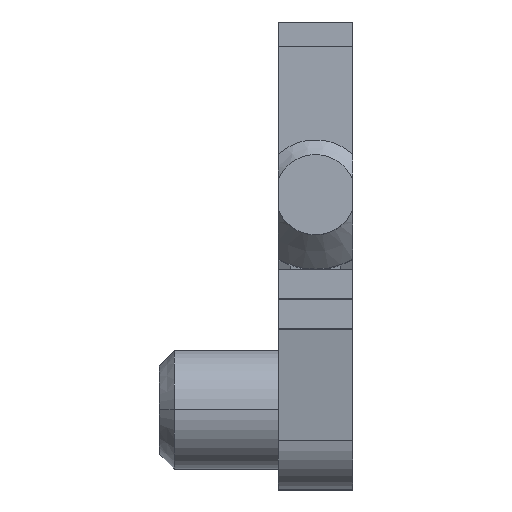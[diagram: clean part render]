
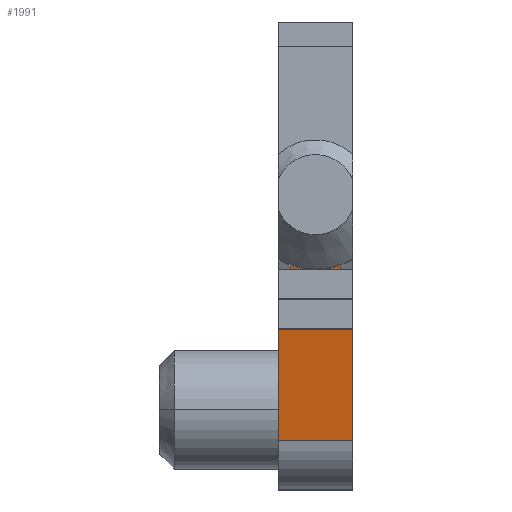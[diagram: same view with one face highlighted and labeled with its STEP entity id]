
A CAD part, top view. The second image highlights one B-rep face of the part: STEP entity #1991.
In plain terms, the highlighted planar face has unit normal (0, -0.174, 0.985).
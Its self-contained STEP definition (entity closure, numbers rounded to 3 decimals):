
#7 = LINE ( 'NONE', #755, #1011 ) ;
#21 = CARTESIAN_POINT ( 'NONE',  ( -1.25, -8.218, -32.112 ) ) ;
#52 = VERTEX_POINT ( 'NONE', #1746 ) ;
#207 = LINE ( 'NONE', #573, #2129 ) ;
#223 = CARTESIAN_POINT ( 'NONE',  ( -0.85, -8.218, -32.112 ) ) ;
#252 = LINE ( 'NONE', #1008, #3232 ) ;
#442 = EDGE_CURVE ( 'NONE', #5050, #579, #2535, .T. ) ;
#459 =( BOUNDED_CURVE ( )  B_SPLINE_CURVE ( 3, ( #995, #611, #4499, #2536 ),
 .UNSPECIFIED., .F., .T. ) 
 B_SPLINE_CURVE_WITH_KNOTS ( ( 4, 4 ),
 ( 2.754, 3.529 ),
 .UNSPECIFIED. ) 
 CURVE ( )  GEOMETRIC_REPRESENTATION_ITEM ( )  RATIONAL_B_SPLINE_CURVE ( ( 1., 0.951, 0.951, 1. ) ) 
 REPRESENTATION_ITEM ( '' )  );
#573 = CARTESIAN_POINT ( 'NONE',  ( -1.25, -8.218, -32.112 ) ) ;
#579 = VERTEX_POINT ( 'NONE', #3121 ) ;
#604 = EDGE_CURVE ( 'NONE', #52, #3971, #1122, .T. ) ;
#611 = CARTESIAN_POINT ( 'NONE',  ( 0.298, -2.308, -31.07 ) ) ;
#755 = CARTESIAN_POINT ( 'NONE',  ( 0.85, -8.218, -32.112 ) ) ;
#781 = ORIENTED_EDGE ( 'NONE', *, *, #4989, .T. ) ;
#813 = EDGE_CURVE ( 'NONE', #3971, #579, #207, .T. ) ;
#862 = PLANE ( 'NONE',  #2774 ) ;
#995 = CARTESIAN_POINT ( 'NONE',  ( 0.85, -2.083, -31.03 ) ) ;
#1008 = CARTESIAN_POINT ( 'NONE',  ( 48.969, -3.128, -31.214 ) ) ;
#1011 = VECTOR ( 'NONE', #3868, 1000. ) ;
#1026 = VERTEX_POINT ( 'NONE', #2315 ) ;
#1122 = LINE ( 'NONE', #2657, #4350 ) ;
#1174 = ORIENTED_EDGE ( 'NONE', *, *, #813, .F. ) ;
#1323 = DIRECTION ( 'NONE',  ( 0., -0.985, -0.174 ) ) ;
#1581 = DIRECTION ( 'NONE',  ( -1., 0., 0. ) ) ;
#1702 = VECTOR ( 'NONE', #1323, 1000. ) ;
#1746 = CARTESIAN_POINT ( 'NONE',  ( 1.25, -8.218, -32.112 ) ) ;
#1768 = VECTOR ( 'NONE', #3291, 1000. ) ;
#1862 = ORIENTED_EDGE ( 'NONE', *, *, #3608, .T. ) ;
#1923 = ORIENTED_EDGE ( 'NONE', *, *, #2394, .T. ) ;
#1991 = ADVANCED_FACE ( 'NONE', ( #5048 ), #862, .F. ) ;
#2129 = VECTOR ( 'NONE', #3793, 1000. ) ;
#2315 = CARTESIAN_POINT ( 'NONE',  ( 0.85, -2.083, -31.03 ) ) ;
#2394 = EDGE_CURVE ( 'NONE', #3530, #1026, #7, .T. ) ;
#2406 = CARTESIAN_POINT ( 'NONE',  ( 1.25, -8.218, -32.112 ) ) ;
#2407 = ORIENTED_EDGE ( 'NONE', *, *, #442, .T. ) ;
#2460 = CARTESIAN_POINT ( 'NONE',  ( -0.85, -2.083, -31.03 ) ) ;
#2535 = LINE ( 'NONE', #2916, #2949 ) ;
#2536 = CARTESIAN_POINT ( 'NONE',  ( -0.85, -2.083, -31.03 ) ) ;
#2657 = CARTESIAN_POINT ( 'NONE',  ( 48.969, -8.218, -32.112 ) ) ;
#2774 = AXIS2_PLACEMENT_3D ( 'NONE', #4247, #3462, #3487 ) ;
#2817 = LINE ( 'NONE', #2406, #1768 ) ;
#2844 = CARTESIAN_POINT ( 'NONE',  ( 1.25, -3.128, -31.214 ) ) ;
#2916 = CARTESIAN_POINT ( 'NONE',  ( 48.969, -3.128, -31.214 ) ) ;
#2949 = VECTOR ( 'NONE', #4498, 1000. ) ;
#3008 = CARTESIAN_POINT ( 'NONE',  ( -0.85, -3.128, -31.214 ) ) ;
#3121 = CARTESIAN_POINT ( 'NONE',  ( -1.25, -3.128, -31.214 ) ) ;
#3128 = VERTEX_POINT ( 'NONE', #2460 ) ;
#3150 = EDGE_CURVE ( 'NONE', #3128, #5050, #3641, .T. ) ;
#3232 = VECTOR ( 'NONE', #3817, 1000. ) ;
#3291 = DIRECTION ( 'NONE',  ( 0., 0.985, 0.174 ) ) ;
#3462 = DIRECTION ( 'NONE',  ( 0., 0.174, -0.985 ) ) ;
#3487 = DIRECTION ( 'NONE',  ( 0., 0.985, 0.174 ) ) ;
#3530 = VERTEX_POINT ( 'NONE', #4477 ) ;
#3608 = EDGE_CURVE ( 'NONE', #1026, #3128, #459, .T. ) ;
#3641 = LINE ( 'NONE', #223, #1702 ) ;
#3793 = DIRECTION ( 'NONE',  ( 0., 0.985, 0.174 ) ) ;
#3817 = DIRECTION ( 'NONE',  ( 1., 0., 0. ) ) ;
#3868 = DIRECTION ( 'NONE',  ( 0., 0.985, 0.174 ) ) ;
#3971 = VERTEX_POINT ( 'NONE', #21 ) ;
#4119 = EDGE_LOOP ( 'NONE', ( #4555, #2407, #1174, #4743, #781, #4301, #1923, #1862 ) ) ;
#4247 = CARTESIAN_POINT ( 'NONE',  ( 48.969, -8.218, -32.112 ) ) ;
#4301 = ORIENTED_EDGE ( 'NONE', *, *, #4594, .F. ) ;
#4350 = VECTOR ( 'NONE', #1581, 1000. ) ;
#4477 = CARTESIAN_POINT ( 'NONE',  ( 0.85, -3.128, -31.214 ) ) ;
#4498 = DIRECTION ( 'NONE',  ( -1., 0., 0. ) ) ;
#4499 = CARTESIAN_POINT ( 'NONE',  ( -0.298, -2.308, -31.07 ) ) ;
#4555 = ORIENTED_EDGE ( 'NONE', *, *, #3150, .T. ) ;
#4594 = EDGE_CURVE ( 'NONE', #3530, #4932, #252, .T. ) ;
#4743 = ORIENTED_EDGE ( 'NONE', *, *, #604, .F. ) ;
#4932 = VERTEX_POINT ( 'NONE', #2844 ) ;
#4989 = EDGE_CURVE ( 'NONE', #52, #4932, #2817, .T. ) ;
#5048 = FACE_OUTER_BOUND ( 'NONE', #4119, .T. ) ;
#5050 = VERTEX_POINT ( 'NONE', #3008 ) ;
